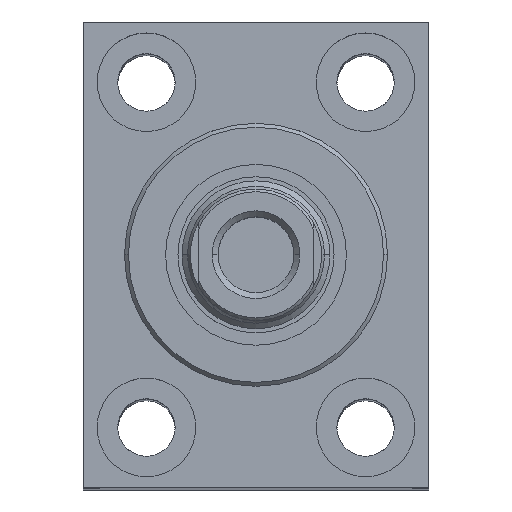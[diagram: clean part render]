
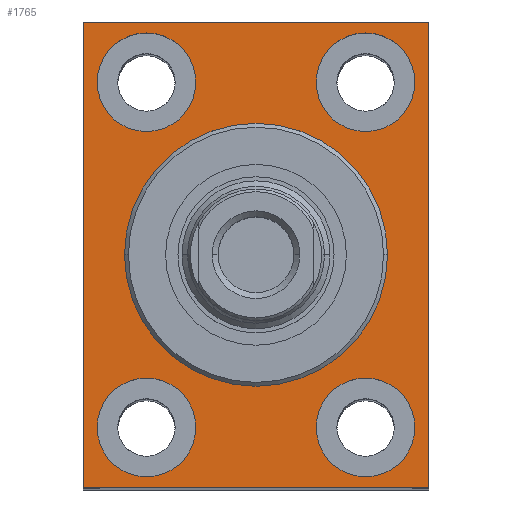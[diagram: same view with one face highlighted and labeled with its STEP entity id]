
A CAD part, top view. The second image highlights one B-rep face of the part: STEP entity #1765.
In plain terms, the highlighted planar face has unit normal (0, 0, 1).
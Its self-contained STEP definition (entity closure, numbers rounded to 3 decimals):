
#37 = CARTESIAN_POINT ( 'NONE',  ( -20., 31.5, -10. ) ) ;
#133 = DIRECTION ( 'NONE',  ( 0., 0., -1. ) ) ;
#242 = VECTOR ( 'NONE', #1273, 1000. ) ;
#339 = DIRECTION ( 'NONE',  ( 0., 0., 1. ) ) ;
#449 = ORIENTED_EDGE ( 'NONE', *, *, #4306, .T. ) ;
#551 = DIRECTION ( 'NONE',  ( 0., 0., -1. ) ) ;
#698 = CARTESIAN_POINT ( 'NONE',  ( -31.5, 42.5, -10. ) ) ;
#721 = AXIS2_PLACEMENT_3D ( 'NONE', #5271, #838, #7183 ) ;
#755 = EDGE_CURVE ( 'NONE', #4007, #7994, #763, .T. ) ;
#763 = CIRCLE ( 'NONE', #5377, 9. ) ;
#838 = DIRECTION ( 'NONE',  ( 0., 0., -1. ) ) ;
#864 = DIRECTION ( 'NONE',  ( 0., 0., -1. ) ) ;
#867 = AXIS2_PLACEMENT_3D ( 'NONE', #1600, #5095, #4700 ) ;
#872 = ORIENTED_EDGE ( 'NONE', *, *, #4492, .T. ) ;
#936 = DIRECTION ( 'NONE',  ( -1., 0., 0. ) ) ;
#948 = EDGE_CURVE ( 'NONE', #5192, #1061, #7757, .T. ) ;
#1036 = CARTESIAN_POINT ( 'NONE',  ( 29., -31.5, -10. ) ) ;
#1061 = VERTEX_POINT ( 'NONE', #4126 ) ;
#1077 = FACE_BOUND ( 'NONE', #4803, .T. ) ;
#1144 = DIRECTION ( 'NONE',  ( -1., 0., 0. ) ) ;
#1166 = VERTEX_POINT ( 'NONE', #4048 ) ;
#1221 = ORIENTED_EDGE ( 'NONE', *, *, #948, .T. ) ;
#1273 = DIRECTION ( 'NONE',  ( 0., -1., 0. ) ) ;
#1294 = EDGE_LOOP ( 'NONE', ( #2042, #1221, #449, #4448 ) ) ;
#1341 = AXIS2_PLACEMENT_3D ( 'NONE', #1636, #4154, #1556 ) ;
#1490 = VERTEX_POINT ( 'NONE', #2958 ) ;
#1556 = DIRECTION ( 'NONE',  ( -1., 0., 0. ) ) ;
#1600 = CARTESIAN_POINT ( 'NONE',  ( 20., -31.5, -10. ) ) ;
#1625 = FACE_BOUND ( 'NONE', #3964, .T. ) ;
#1636 = CARTESIAN_POINT ( 'NONE',  ( 20., 31.5, -10. ) ) ;
#1684 = CARTESIAN_POINT ( 'NONE',  ( -29., 31.5, -10. ) ) ;
#1721 = VERTEX_POINT ( 'NONE', #1036 ) ;
#1765 = ADVANCED_FACE ( 'NONE', ( #4222, #5465, #4178, #1077, #1625, #3608 ), #2044, .T. ) ;
#1963 = AXIS2_PLACEMENT_3D ( 'NONE', #6614, #4158, #936 ) ;
#2042 = ORIENTED_EDGE ( 'NONE', *, *, #2532, .T. ) ;
#2044 = PLANE ( 'NONE',  #4860 ) ;
#2065 = DIRECTION ( 'NONE',  ( 1., 0., 0. ) ) ;
#2188 = CIRCLE ( 'NONE', #867, 9. ) ;
#2203 = VERTEX_POINT ( 'NONE', #4796 ) ;
#2243 = DIRECTION ( 'NONE',  ( 1., 0., 0. ) ) ;
#2407 = ORIENTED_EDGE ( 'NONE', *, *, #6397, .T. ) ;
#2429 = CARTESIAN_POINT ( 'NONE',  ( 24.001, 0., -10. ) ) ;
#2513 = DIRECTION ( 'NONE',  ( 0., 0., -1. ) ) ;
#2532 = EDGE_CURVE ( 'NONE', #2719, #5192, #5170, .T. ) ;
#2672 = DIRECTION ( 'NONE',  ( 0., 1., 0. ) ) ;
#2676 = EDGE_CURVE ( 'NONE', #4134, #1721, #7402, .T. ) ;
#2719 = VERTEX_POINT ( 'NONE', #4202 ) ;
#2844 = VECTOR ( 'NONE', #6223, 1000. ) ;
#2873 = ORIENTED_EDGE ( 'NONE', *, *, #7521, .T. ) ;
#2957 = DIRECTION ( 'NONE',  ( 0., 0., -1. ) ) ;
#2958 = CARTESIAN_POINT ( 'NONE',  ( -24.001, 0., -10. ) ) ;
#3026 = CARTESIAN_POINT ( 'NONE',  ( -20., -31.5, -10. ) ) ;
#3252 = CARTESIAN_POINT ( 'NONE',  ( 31.5, -42.5, -10. ) ) ;
#3304 = AXIS2_PLACEMENT_3D ( 'NONE', #7173, #864, #3387 ) ;
#3387 = DIRECTION ( 'NONE',  ( -1., 0., 0. ) ) ;
#3608 = FACE_OUTER_BOUND ( 'NONE', #1294, .T. ) ;
#3689 = LINE ( 'NONE', #3805, #2844 ) ;
#3805 = CARTESIAN_POINT ( 'NONE',  ( 31.5, 42.5, -10. ) ) ;
#3888 = CIRCLE ( 'NONE', #4423, 9. ) ;
#3964 = EDGE_LOOP ( 'NONE', ( #4195, #4641 ) ) ;
#3972 = EDGE_CURVE ( 'NONE', #5319, #1490, #6885, .T. ) ;
#4007 = VERTEX_POINT ( 'NONE', #5495 ) ;
#4032 = LINE ( 'NONE', #3252, #5032 ) ;
#4045 = EDGE_LOOP ( 'NONE', ( #2407, #7370 ) ) ;
#4048 = CARTESIAN_POINT ( 'NONE',  ( 11., 31.5, -10. ) ) ;
#4126 = CARTESIAN_POINT ( 'NONE',  ( 31.5, -42.5, -10. ) ) ;
#4134 = VERTEX_POINT ( 'NONE', #6369 ) ;
#4154 = DIRECTION ( 'NONE',  ( 0., 0., -1. ) ) ;
#4158 = DIRECTION ( 'NONE',  ( 0., 0., -1. ) ) ;
#4178 = FACE_BOUND ( 'NONE', #7714, .T. ) ;
#4195 = ORIENTED_EDGE ( 'NONE', *, *, #4966, .T. ) ;
#4202 = CARTESIAN_POINT ( 'NONE',  ( -31.5, 42.5, -10. ) ) ;
#4222 = FACE_BOUND ( 'NONE', #4045, .T. ) ;
#4236 = CARTESIAN_POINT ( 'NONE',  ( -20., 31.5, -10. ) ) ;
#4276 = CIRCLE ( 'NONE', #721, 24.001 ) ;
#4306 = EDGE_CURVE ( 'NONE', #1061, #6263, #4032, .T. ) ;
#4423 = AXIS2_PLACEMENT_3D ( 'NONE', #37, #2513, #5697 ) ;
#4448 = ORIENTED_EDGE ( 'NONE', *, *, #7451, .T. ) ;
#4492 = EDGE_CURVE ( 'NONE', #2203, #1166, #7568, .T. ) ;
#4500 = EDGE_CURVE ( 'NONE', #6341, #5790, #8105, .T. ) ;
#4617 = CARTESIAN_POINT ( 'NONE',  ( -29., -31.5, -10. ) ) ;
#4641 = ORIENTED_EDGE ( 'NONE', *, *, #755, .T. ) ;
#4700 = DIRECTION ( 'NONE',  ( -1., 0., 0. ) ) ;
#4773 = AXIS2_PLACEMENT_3D ( 'NONE', #4236, #2957, #5482 ) ;
#4796 = CARTESIAN_POINT ( 'NONE',  ( 29., 31.5, -10. ) ) ;
#4803 = EDGE_LOOP ( 'NONE', ( #6381, #2873 ) ) ;
#4860 = AXIS2_PLACEMENT_3D ( 'NONE', #7929, #339, #2243 ) ;
#4935 = CARTESIAN_POINT ( 'NONE',  ( -20., -31.5, -10. ) ) ;
#4966 = EDGE_CURVE ( 'NONE', #7994, #4007, #5153, .T. ) ;
#5032 = VECTOR ( 'NONE', #2672, 1000. ) ;
#5095 = DIRECTION ( 'NONE',  ( 0., 0., -1. ) ) ;
#5153 = CIRCLE ( 'NONE', #7280, 9. ) ;
#5170 = LINE ( 'NONE', #698, #242 ) ;
#5192 = VERTEX_POINT ( 'NONE', #6463 ) ;
#5271 = CARTESIAN_POINT ( 'NONE',  ( 0., 0., -10. ) ) ;
#5319 = VERTEX_POINT ( 'NONE', #2429 ) ;
#5354 = VECTOR ( 'NONE', #2065, 1000. ) ;
#5377 = AXIS2_PLACEMENT_3D ( 'NONE', #4935, #551, #5584 ) ;
#5402 = EDGE_CURVE ( 'NONE', #1166, #2203, #6837, .T. ) ;
#5440 = EDGE_LOOP ( 'NONE', ( #6587, #7654 ) ) ;
#5465 = FACE_BOUND ( 'NONE', #5440, .T. ) ;
#5476 = CARTESIAN_POINT ( 'NONE',  ( 31.5, 42.5, -10. ) ) ;
#5482 = DIRECTION ( 'NONE',  ( -1., 0., 0. ) ) ;
#5495 = CARTESIAN_POINT ( 'NONE',  ( -11., -31.5, -10. ) ) ;
#5584 = DIRECTION ( 'NONE',  ( -1., 0., 0. ) ) ;
#5697 = DIRECTION ( 'NONE',  ( -1., 0., 0. ) ) ;
#5744 = CARTESIAN_POINT ( 'NONE',  ( -31.5, -42.5, -10. ) ) ;
#5790 = VERTEX_POINT ( 'NONE', #1684 ) ;
#6195 = CARTESIAN_POINT ( 'NONE',  ( -11., 31.5, -10. ) ) ;
#6223 = DIRECTION ( 'NONE',  ( -1., 0., 0. ) ) ;
#6263 = VERTEX_POINT ( 'NONE', #5476 ) ;
#6341 = VERTEX_POINT ( 'NONE', #6195 ) ;
#6369 = CARTESIAN_POINT ( 'NONE',  ( 11., -31.5, -10. ) ) ;
#6381 = ORIENTED_EDGE ( 'NONE', *, *, #2676, .T. ) ;
#6397 = EDGE_CURVE ( 'NONE', #1490, #5319, #4276, .T. ) ;
#6440 = AXIS2_PLACEMENT_3D ( 'NONE', #6746, #7419, #1144 ) ;
#6463 = CARTESIAN_POINT ( 'NONE',  ( -31.5, -42.5, -10. ) ) ;
#6587 = ORIENTED_EDGE ( 'NONE', *, *, #6699, .T. ) ;
#6614 = CARTESIAN_POINT ( 'NONE',  ( 20., -31.5, -10. ) ) ;
#6699 = EDGE_CURVE ( 'NONE', #5790, #6341, #3888, .T. ) ;
#6746 = CARTESIAN_POINT ( 'NONE',  ( 20., 31.5, -10. ) ) ;
#6837 = CIRCLE ( 'NONE', #6440, 9. ) ;
#6885 = CIRCLE ( 'NONE', #3304, 24.001 ) ;
#7173 = CARTESIAN_POINT ( 'NONE',  ( 0., 0., -10. ) ) ;
#7183 = DIRECTION ( 'NONE',  ( -1., 0., 0. ) ) ;
#7261 = ORIENTED_EDGE ( 'NONE', *, *, #5402, .T. ) ;
#7280 = AXIS2_PLACEMENT_3D ( 'NONE', #3026, #133, #7592 ) ;
#7370 = ORIENTED_EDGE ( 'NONE', *, *, #3972, .T. ) ;
#7402 = CIRCLE ( 'NONE', #1963, 9. ) ;
#7419 = DIRECTION ( 'NONE',  ( 0., 0., -1. ) ) ;
#7451 = EDGE_CURVE ( 'NONE', #6263, #2719, #3689, .T. ) ;
#7521 = EDGE_CURVE ( 'NONE', #1721, #4134, #2188, .T. ) ;
#7568 = CIRCLE ( 'NONE', #1341, 9. ) ;
#7592 = DIRECTION ( 'NONE',  ( -1., 0., 0. ) ) ;
#7654 = ORIENTED_EDGE ( 'NONE', *, *, #4500, .T. ) ;
#7714 = EDGE_LOOP ( 'NONE', ( #7261, #872 ) ) ;
#7757 = LINE ( 'NONE', #5744, #5354 ) ;
#7929 = CARTESIAN_POINT ( 'NONE',  ( 0., 0., -10. ) ) ;
#7994 = VERTEX_POINT ( 'NONE', #4617 ) ;
#8105 = CIRCLE ( 'NONE', #4773, 9. ) ;
